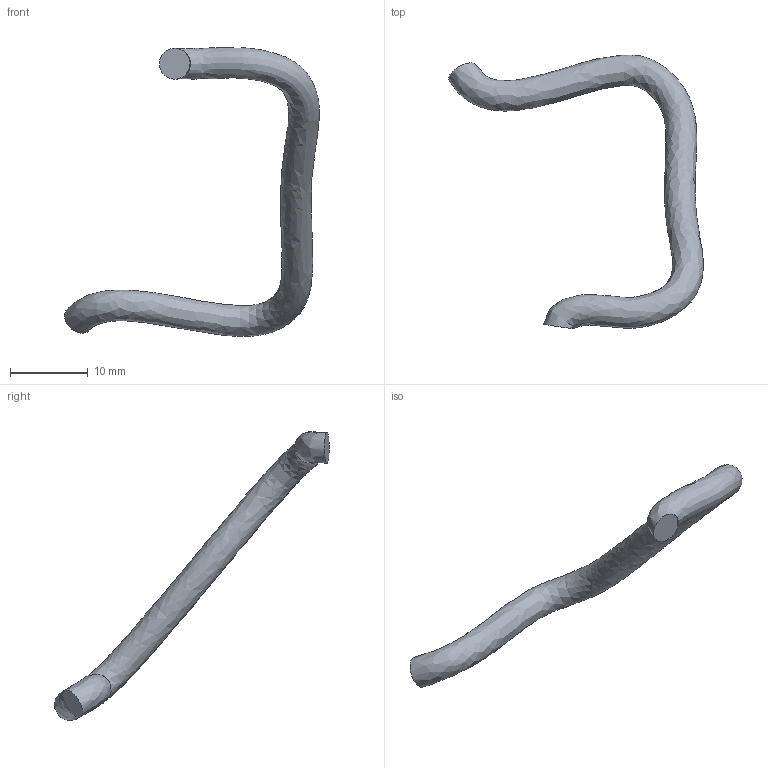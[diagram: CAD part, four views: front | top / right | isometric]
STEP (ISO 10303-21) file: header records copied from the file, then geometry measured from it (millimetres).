
FILE_DESCRIPTION(('Open CASCADE Model'),'2;1');
FILE_NAME('Open CASCADE Shape Model','2026-11-01T16:33:55',('Author'),( 'Open CASCADE'),'Open CASCADE STEP processor 8.0','build123d', 'Unknown');
FILE_SCHEMA(('AUTOMOTIVE_DESIGN { 1 0 10303 214 1 1 1 1 }'));
Length unit declared in the file: millimetre
Products named in the file (1): SOLID
Bounding box: 32.84 x 35.39 x 37.28 mm (x, y, z)
Volume: 1095.4 mm3; surface area: 1118.6 mm2
Topology: 1 solids, 1 shells, 3 faces, 3 edges, 2 vertices
Faces by surface type: plane 2, bspline 1
Entity records: 4812 total; most frequent: CARTESIAN_POINT 4742, DIRECTION 9, ORIENTED_EDGE 6, PCURVE 6, DEFINITIONAL_REPRESENTATION 6, AXIS2_PLACEMENT_3D 3, ADVANCED_FACE 3, FACE_BOUND 3
